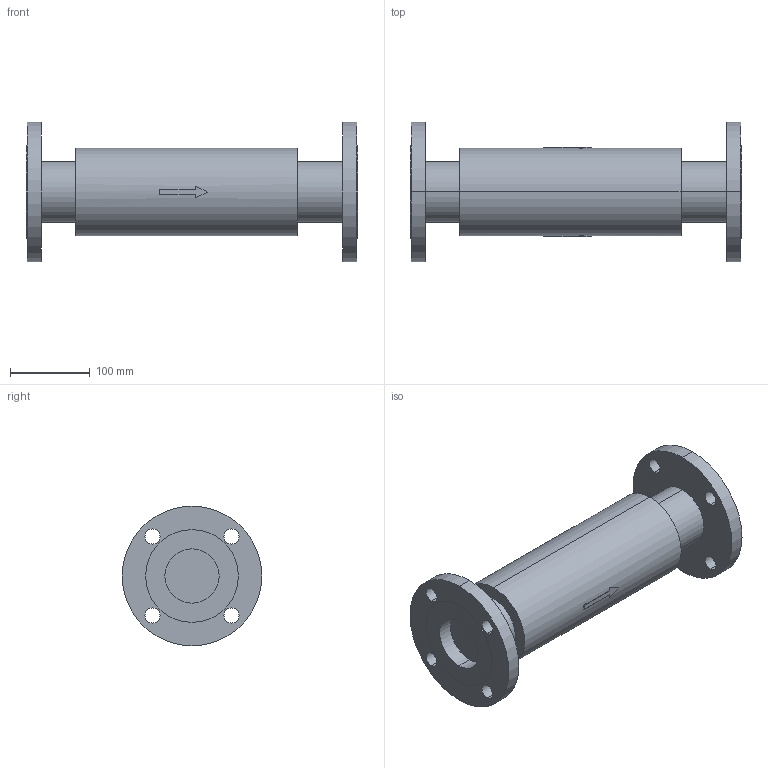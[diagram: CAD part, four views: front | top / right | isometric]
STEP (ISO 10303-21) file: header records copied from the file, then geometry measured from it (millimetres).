
FILE_DESCRIPTION( (''), '2;1');
FILE_NAME ('PC1027.10420.EB-1J　65A_19159.stp','2025-07-29T12:54:20',(''),(''),'spGate 20.6.3 (****-****-****-****)','','');
FILE_SCHEMA (('AUTOMOTIVE_DESIGN'));
Length unit declared in the file: millimetre
Bounding box: 415 x 175 x 175 mm (x, y, z)
Volume: 3785701 mm3; surface area: 249273.2 mm2
Topology: 1 solids, 1 shells, 60 faces, 146 edges, 98 vertices
Faces by surface type: cylinder 34, plane 26
Entity records: 2989 total; most frequent: CARTESIAN_POINT 346, DIRECTION 304, ORIENTED_EDGE 292, COLOUR_RGB 207, PRESENTATION_STYLE_ASSIGNMENT 207, STYLED_ITEM 207, EDGE_CURVE 146, DRAUGHTING_PRE_DEFINED_CURVE_FONT 146
